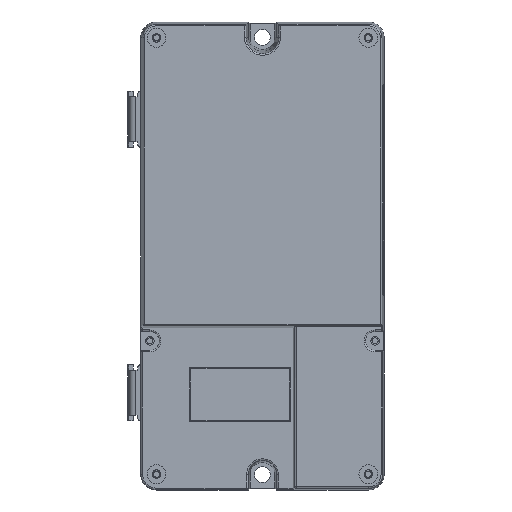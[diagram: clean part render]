
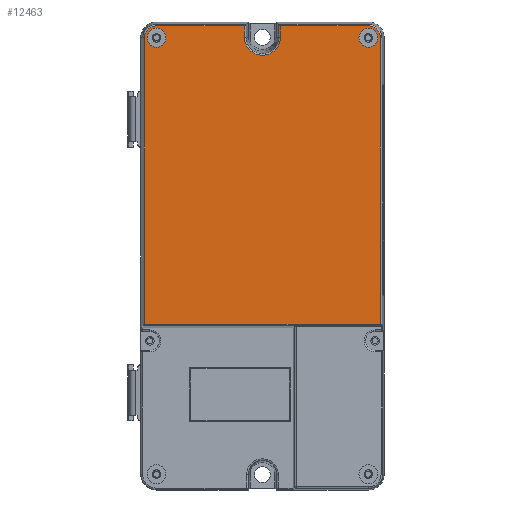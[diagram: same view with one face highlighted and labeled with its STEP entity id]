
A CAD part, front view. The second image highlights one B-rep face of the part: STEP entity #12463.
In plain terms, the highlighted planar face has unit normal (0, -1, 0).
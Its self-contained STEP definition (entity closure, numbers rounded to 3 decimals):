
#8465=CARTESIAN_POINT('',(-34.8,-52.,43.1));
#8466=DIRECTION('',(0.,1.,0.));
#8467=DIRECTION('',(1.,0.,0.));
#8468=AXIS2_PLACEMENT_3D('',#8465,#8466,#8467);
#8473=CARTESIAN_POINT('',(-34.8,-52.,43.1));
#8474=DIRECTION('',(0.,1.,0.));
#8475=DIRECTION('',(-1.,0.,0.));
#8476=AXIS2_PLACEMENT_3D('',#8473,#8474,#8475);
#8481=CARTESIAN_POINT('',(34.8,-52.,43.1));
#8482=DIRECTION('',(0.,1.,0.));
#8483=DIRECTION('',(1.,0.,0.));
#8484=AXIS2_PLACEMENT_3D('',#8481,#8482,#8483);
#8489=CARTESIAN_POINT('',(34.8,-52.,43.1));
#8490=DIRECTION('',(0.,1.,0.));
#8491=DIRECTION('',(-1.,0.,0.));
#8492=AXIS2_PLACEMENT_3D('',#8489,#8490,#8491);
#9420=DIRECTION('',(0.,0.,1.));
#9421=VECTOR('',#9420,94.14);
#9422=CARTESIAN_POINT('',(38.74,-52.,-51.04));
#9423=LINE('',#9422,#9421);
#9458=CARTESIAN_POINT('',(34.8,-52.,43.1));
#9459=DIRECTION('',(0.,1.,0.));
#9460=DIRECTION('',(0.,0.,1.));
#9461=AXIS2_PLACEMENT_3D('',#9458,#9459,#9460);
#9510=CARTESIAN_POINT('',(-34.8,-52.,43.1));
#9511=DIRECTION('',(0.,1.,0.));
#9512=DIRECTION('',(-1.,0.,0.));
#9513=AXIS2_PLACEMENT_3D('',#9510,#9511,#9512);
#9526=DIRECTION('',(1.,0.,0.));
#9527=VECTOR('',#9526,28.877);
#9528=CARTESIAN_POINT('',(-34.8,-52.,47.04));
#9529=LINE('',#9528,#9527);
#9575=DIRECTION('',(0.,0.,1.));
#9576=VECTOR('',#9575,3.74);
#9577=CARTESIAN_POINT('',(-5.923,-52.,43.3));
#9578=LINE('',#9577,#9576);
#10438=DIRECTION('',(0.,0.,-1.));
#10439=VECTOR('',#10438,94.14);
#10440=CARTESIAN_POINT('',(-38.74,-52.,43.1));
#10441=LINE('',#10440,#10439);
#10487=DIRECTION('',(-1.,0.,0.));
#10488=VECTOR('',#10487,77.481);
#10489=CARTESIAN_POINT('',(38.74,-52.,-51.04));
#10490=LINE('',#10489,#10488);
#11772=DIRECTION('',(0.,0.,-1.));
#11773=VECTOR('',#11772,3.74);
#11774=CARTESIAN_POINT('',(5.923,-52.,47.04));
#11775=LINE('',#11774,#11773);
#11786=CARTESIAN_POINT('',(0.,-52.,43.3));
#11787=DIRECTION('',(0.,1.,0.));
#11788=DIRECTION('',(1.,0.,0.));
#11789=AXIS2_PLACEMENT_3D('',#11786,#11787,#11788);
#11824=DIRECTION('',(1.,0.,0.));
#11825=VECTOR('',#11824,28.877);
#11826=CARTESIAN_POINT('',(5.923,-52.,47.04));
#11827=LINE('',#11826,#11825);
#11962=CARTESIAN_POINT('',(38.74,-52.,-51.04));
#11963=CARTESIAN_POINT('',(-38.74,-52.,-51.04));
#11964=VERTEX_POINT('',#11962);
#11965=VERTEX_POINT('',#11963);
#12112=CARTESIAN_POINT('',(37.9,-52.,43.1));
#12113=CARTESIAN_POINT('',(31.7,-52.,43.1));
#12114=VERTEX_POINT('',#12112);
#12115=VERTEX_POINT('',#12113);
#12116=CARTESIAN_POINT('',(-31.7,-52.,43.1));
#12117=CARTESIAN_POINT('',(-37.9,-52.,43.1));
#12118=VERTEX_POINT('',#12116);
#12119=VERTEX_POINT('',#12117);
#12356=CARTESIAN_POINT('',(-5.923,-52.,43.3));
#12357=CARTESIAN_POINT('',(-5.923,-52.,47.04));
#12358=VERTEX_POINT('',#12356);
#12359=VERTEX_POINT('',#12357);
#12360=CARTESIAN_POINT('',(5.923,-52.,43.3));
#12361=VERTEX_POINT('',#12360);
#12364=CARTESIAN_POINT('',(5.923,-52.,47.04));
#12365=VERTEX_POINT('',#12364);
#12404=CARTESIAN_POINT('',(34.8,-52.,47.04));
#12405=VERTEX_POINT('',#12404);
#12406=CARTESIAN_POINT('',(38.74,-52.,43.1));
#12407=VERTEX_POINT('',#12406);
#12408=CARTESIAN_POINT('',(-34.8,-52.,47.04));
#12409=VERTEX_POINT('',#12408);
#12410=CARTESIAN_POINT('',(-38.74,-52.,43.1));
#12411=VERTEX_POINT('',#12410);
#12424=CARTESIAN_POINT('',(0.,-52.,0.));
#12425=DIRECTION('',(0.,-1.,0.));
#12426=DIRECTION('',(0.,0.,1.));
#12427=AXIS2_PLACEMENT_3D('',#12424,#12425,#12426);
#12428=PLANE('',#12427);
#12430=ORIENTED_EDGE('',*,*,#12429,.F.);
#12432=ORIENTED_EDGE('',*,*,#12431,.T.);
#12434=ORIENTED_EDGE('',*,*,#12433,.T.);
#12436=ORIENTED_EDGE('',*,*,#12435,.F.);
#12438=ORIENTED_EDGE('',*,*,#12437,.F.);
#12440=ORIENTED_EDGE('',*,*,#12439,.F.);
#12442=ORIENTED_EDGE('',*,*,#12441,.T.);
#12444=ORIENTED_EDGE('',*,*,#12443,.T.);
#12446=ORIENTED_EDGE('',*,*,#12445,.F.);
#12448=ORIENTED_EDGE('',*,*,#12447,.T.);
#12449=EDGE_LOOP('',(#12430,#12432,#12434,#12436,#12438,#12440,#12442,#12444,
#12446,#12448));
#12450=FACE_OUTER_BOUND('',#12449,.F.);
#12452=ORIENTED_EDGE('',*,*,#12451,.F.);
#12454=ORIENTED_EDGE('',*,*,#12453,.F.);
#12455=EDGE_LOOP('',(#12452,#12454));
#12456=FACE_BOUND('',#12455,.F.);
#12458=ORIENTED_EDGE('',*,*,#12457,.F.);
#12460=ORIENTED_EDGE('',*,*,#12459,.F.);
#12461=EDGE_LOOP('',(#12458,#12460));
#12462=FACE_BOUND('',#12461,.F.);
#12463=ADVANCED_FACE('',(#12450,#12456,#12462),#12428,.T.);
#8469=CIRCLE('',#8468,3.1);
#8477=CIRCLE('',#8476,3.1);
#8485=CIRCLE('',#8484,3.1);
#8493=CIRCLE('',#8492,3.1);
#9462=CIRCLE('',#9461,3.94);
#9514=CIRCLE('',#9513,3.94);
#11790=CIRCLE('',#11789,5.923);
#12429=EDGE_CURVE('',#12411,#11965,#10441,.T.);
#12431=EDGE_CURVE('',#12411,#12409,#9514,.T.);
#12433=EDGE_CURVE('',#12409,#12359,#9529,.T.);
#12435=EDGE_CURVE('',#12358,#12359,#9578,.T.);
#12437=EDGE_CURVE('',#12361,#12358,#11790,.T.);
#12439=EDGE_CURVE('',#12365,#12361,#11775,.T.);
#12441=EDGE_CURVE('',#12365,#12405,#11827,.T.);
#12443=EDGE_CURVE('',#12405,#12407,#9462,.T.);
#12445=EDGE_CURVE('',#11964,#12407,#9423,.T.);
#12447=EDGE_CURVE('',#11964,#11965,#10490,.T.);
#12451=EDGE_CURVE('',#12118,#12119,#8469,.T.);
#12453=EDGE_CURVE('',#12119,#12118,#8477,.T.);
#12457=EDGE_CURVE('',#12114,#12115,#8485,.T.);
#12459=EDGE_CURVE('',#12115,#12114,#8493,.T.);
